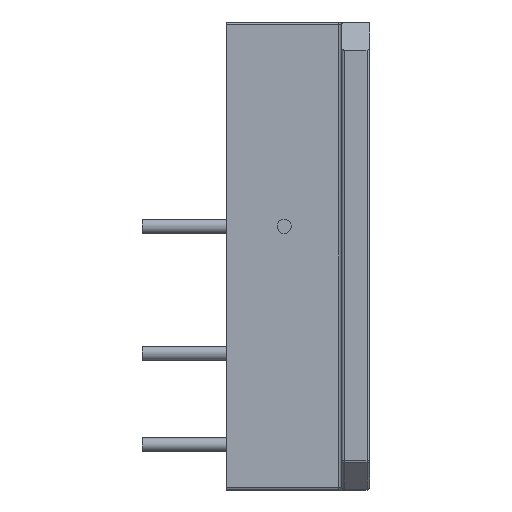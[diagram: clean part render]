
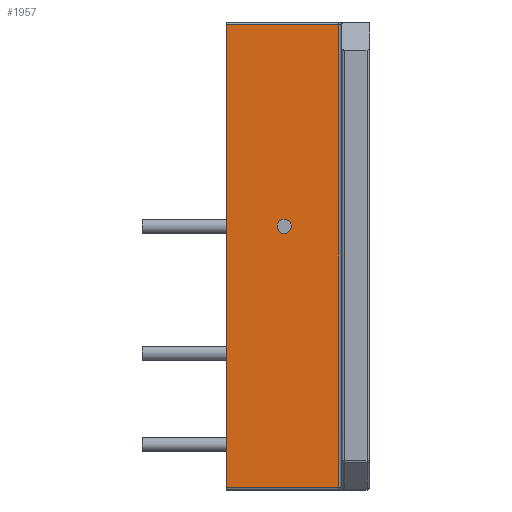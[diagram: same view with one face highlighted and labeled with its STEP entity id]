
A CAD part, left-side view. The second image highlights one B-rep face of the part: STEP entity #1957.
In plain terms, the highlighted planar face has unit normal (-1, 0, 0).
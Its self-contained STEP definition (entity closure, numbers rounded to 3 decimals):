
#1957=ADVANCED_FACE('',(#4156,#4158),#4160,.T.);
#4156=FACE_BOUND('',#4157,.T.);
#4157=EDGE_LOOP('',(#5939,#5940,#5941,#5942));
#4158=FACE_BOUND('',#4159,.T.);
#4159=EDGE_LOOP('',(#5943));
#4160=PLANE('',#4161);
#4161=AXIS2_PLACEMENT_3D('',#4162,#4163,#4164);
#4162=CARTESIAN_POINT('',(-23.75,2.,-16.6));
#4163=DIRECTION('',(-1.,0.,0.));
#4164=DIRECTION('',(0.,0.,1.));
#5939=ORIENTED_EDGE('',*,*,#6854,.F.);
#5940=ORIENTED_EDGE('',*,*,#6855,.T.);
#5941=ORIENTED_EDGE('',*,*,#6856,.T.);
#5942=ORIENTED_EDGE('',*,*,#6857,.F.);
#5943=ORIENTED_EDGE('',*,*,#6858,.T.);
#6854=EDGE_CURVE('',#8042,#8043,#8044,.T.);
#6855=EDGE_CURVE('',#8042,#8045,#8046,.T.);
#6856=EDGE_CURVE('',#8045,#8047,#8048,.T.);
#6857=EDGE_CURVE('',#8043,#8047,#8049,.T.);
#6858=EDGE_CURVE('',#8050,#8050,#8051,.F.);
#8042=VERTEX_POINT('',#10856);
#8043=VERTEX_POINT('',#10857);
#8044=LINE('',#10858,#10859);
#8045=VERTEX_POINT('',#10861);
#8046=LINE('',#10862,#10863);
#8047=VERTEX_POINT('',#10865);
#8048=LINE('',#10866,#10867);
#8049=LINE('',#10869,#10870);
#8050=VERTEX_POINT('',#10872);
#8051=CIRCLE('',#10873,0.5);
#10856=CARTESIAN_POINT('',(-23.75,2.2,-16.4));
#10857=CARTESIAN_POINT('',(-23.75,10.15,-16.4));
#10858=CARTESIAN_POINT('',(-23.75,2.2,-16.4));
#10859=VECTOR('',#10860,1.);
#10860=DIRECTION('',(0.,1.,0.));
#10861=CARTESIAN_POINT('',(-23.75,2.2,16.4));
#10862=CARTESIAN_POINT('',(-23.75,2.2,-16.4));
#10863=VECTOR('',#10864,1.);
#10864=DIRECTION('',(0.,0.,1.));
#10865=CARTESIAN_POINT('',(-23.75,10.15,16.4));
#10866=CARTESIAN_POINT('',(-23.75,2.2,16.4));
#10867=VECTOR('',#10868,1.);
#10868=DIRECTION('',(0.,1.,0.));
#10869=CARTESIAN_POINT('',(-23.75,10.15,-16.4));
#10870=VECTOR('',#10871,1.);
#10871=DIRECTION('',(0.,0.,1.));
#10872=CARTESIAN_POINT('',(-23.75,6.075,1.6));
#10873=AXIS2_PLACEMENT_3D('',#10874,#10875,#10876);
#10874=CARTESIAN_POINT('',(-23.75,6.075,2.1));
#10875=DIRECTION('',(-1.,0.,0.));
#10876=DIRECTION('',(0.,0.,-1.));
